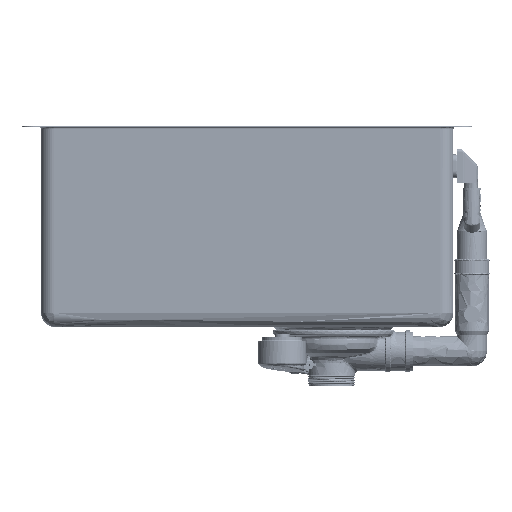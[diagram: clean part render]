
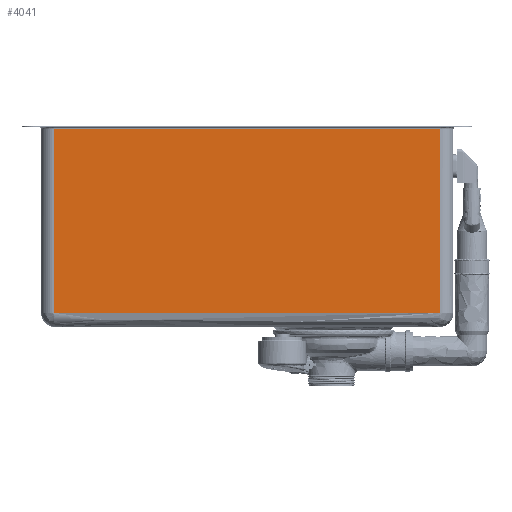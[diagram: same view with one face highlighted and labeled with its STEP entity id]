
A CAD part, left-side view. The second image highlights one B-rep face of the part: STEP entity #4041.
In plain terms, the highlighted free-form (B-spline) face has degree [1, 1] with [2, 2] control points.
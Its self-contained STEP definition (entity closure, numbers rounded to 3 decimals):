
#4041=ADVANCED_FACE('',(#19430),#19431,.T.);
#19430=FACE_OUTER_BOUND('',#73294,.T.);
#19431=B_SPLINE_SURFACE_WITH_KNOTS('',1,1,((#73295,#73296),(#73297,#73298)),.UNSPECIFIED.,.F.,.F.,.F.,(2,2),(2,2),(0.0,1.0),(0.0,1.0),.UNSPECIFIED.);
#73294=EDGE_LOOP('',(#222352,#222353,#222354,#222355));
#73295=CARTESIAN_POINT('',(-351.,-163.,-33.0));
#73296=CARTESIAN_POINT('',(-351.,-163.,-216.49));
#73297=CARTESIAN_POINT('',(-351.,223.,-33.));
#73298=CARTESIAN_POINT('',(-351.,223.,-216.49));
#222352=ORIENTED_EDGE('',*,*,#272723,.F.);
#222353=ORIENTED_EDGE('',*,*,#269766,.T.);
#222354=ORIENTED_EDGE('',*,*,#269718,.F.);
#222355=ORIENTED_EDGE('',*,*,#271387,.F.);
#269718=EDGE_CURVE('',#304975,#304977,#304978,.T.);
#269766=EDGE_CURVE('',#305064,#304977,#305067,.T.);
#271387=EDGE_CURVE('',#304425,#304975,#307930,.T.);
#272723=EDGE_CURVE('',#305064,#304425,#309917,.T.);
#304425=VERTEX_POINT('',#365521);
#304975=VERTEX_POINT('',#367397);
#304977=VERTEX_POINT('',#367412);
#304978=LINE('',#367413,#367414);
#305064=VERTEX_POINT('',#367545);
#305067=LINE('',#367555,#367556);
#307930=LINE('',#371942,#371943);
#309917=LINE('',#374925,#374926);
#365521=CARTESIAN_POINT('',(-351.,-163.,-33.0));
#367397=CARTESIAN_POINT('',(-351.,-163.,-216.49));
#367412=CARTESIAN_POINT('',(-351.,223.,-216.49));
#367413=CARTESIAN_POINT('',(-351.,-66.5,-216.49));
#367414=VECTOR('',#470695,1.0);
#367545=CARTESIAN_POINT('',(-351.,223.,-33.));
#367555=CARTESIAN_POINT('',(-351.,223.,-31.));
#367556=VECTOR('',#470781,1.0);
#371942=CARTESIAN_POINT('',(-351.,-163.,-31.0));
#371943=VECTOR('',#473482,1.0);
#374925=CARTESIAN_POINT('',(-351.,-66.5,-33.0));
#374926=VECTOR('',#475737,1.0);
#470695=DIRECTION('',(0.,1.0,0.));
#470781=DIRECTION('',(0.,0.,-1.0));
#473482=DIRECTION('',(0.,0.,-1.0));
#475737=DIRECTION('',(0.,-1.0,0.));
